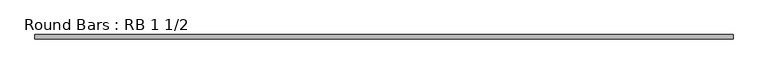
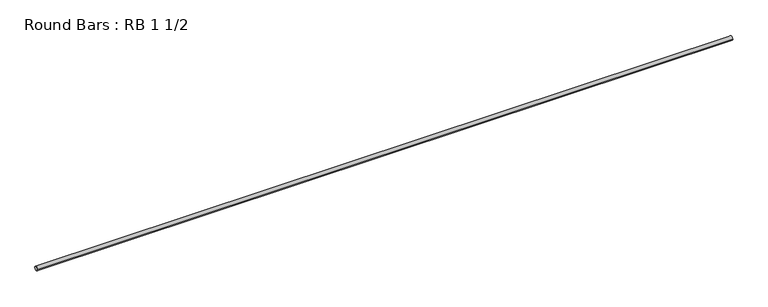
"""IFC4 building model written with IfcOpenShell, lengths in millimetres: member geometry, Round Bars : RB 1 1/2."""

from ifc_helpers import new_model, si_unit, point, frame, origin, origin_2d, place, context, project, spatial, circle_curve, trimmed, segment, composite_curve, outline, extrude, source, transform, mapped, element, save


def round_bars_rb_1_1_2_83610141(model_context):
    return source(origin(), model_context, "Body", "SweptSolid", [
        extrude(outline(composite_curve([segment(trimmed(circle_curve(origin_2d(), 19.05), [point((19.05, 0.0))], [point((-19.05, 0.0))], False, "CARTESIAN"), True, "CONTINUOUS"), segment(trimmed(circle_curve(origin_2d(), 19.05), [point((-19.05, 0.0))], [point((19.05, 0.0))], False, "CARTESIAN"), True, "CONTINUOUS")], self_intersect=False)), frame((-3100.8294611, 0.0, 0.0), z_axis=(1.0, 0.0, 0.0), x_axis=(0.0, 1.0, 0.0)), (0.0, 0.0, 1.0), 6296.3371272),
    ])


if __name__ == "__main__":
    model = new_model("IFC4")
    model_context = context("Model", 3, world=origin())
    ifc_project = project(units=[si_unit("LENGTHUNIT", "METRE", prefix="MILLI")], contexts=[model_context])
    site = spatial("IfcSite", under=ifc_project)
    building = spatial("IfcBuilding", under=site)
    placement = place(None, origin())
    round_bars_rb_1_1_2_shape = round_bars_rb_1_1_2_83610141(model_context)
    element("IfcMember", 1, ObjectType="Round Bars : RB 1 1/2", at=placement, inside=building, context=model_context, shape_type="MappedRepresentation", body=[
        mapped(round_bars_rb_1_1_2_shape, transform((0.0, 0.0, 0.0), x_axis=(1.0, 0.0, 0.0), y_axis=(0.0, 1.0, 0.0), z_axis=(0.0, 0.0, 1.0))),
    ])
    save(model, "model.ifc")
